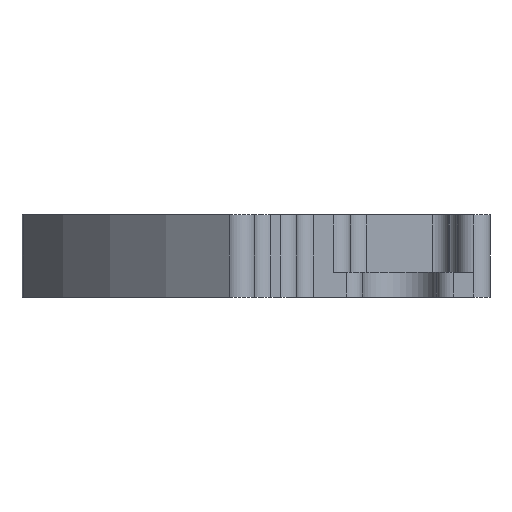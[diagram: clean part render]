
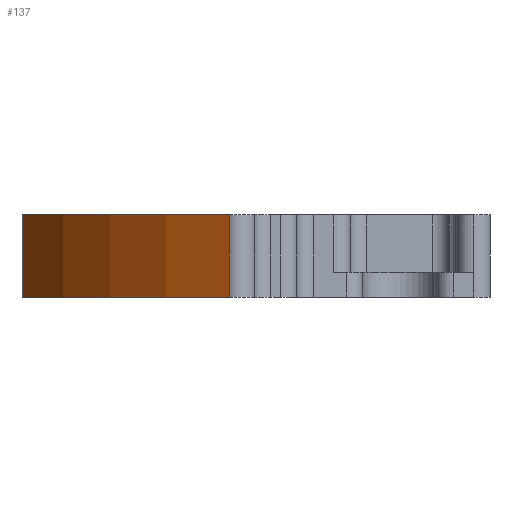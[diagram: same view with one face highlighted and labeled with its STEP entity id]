
A CAD part, front view. The second image highlights one B-rep face of the part: STEP entity #137.
In plain terms, the highlighted cylindrical face has radius 34 mm (diameter 68 mm), a partial arc.
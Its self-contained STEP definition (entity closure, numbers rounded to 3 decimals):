
#137=ADVANCED_FACE('',(#255),#1103,.T.);
#255=FACE_OUTER_BOUND('',#373,.F.);
#373=EDGE_LOOP('',(#511,#512,#513,#514));
#511=ORIENTED_EDGE('',*,*,#1531,.T.);
#512=ORIENTED_EDGE('',*,*,#1526,.F.);
#513=ORIENTED_EDGE('',*,*,#1529,.T.);
#514=ORIENTED_EDGE('',*,*,#1525,.T.);
#1103=CYLINDRICAL_SURFACE('',#2216,34.);
#1197=LINE('',#3227,#1355);
#1198=LINE('',#3228,#1356);
#1355=VECTOR('',#2396,5.);
#1356=VECTOR('',#2397,5.);
#1525=EDGE_CURVE('',#2056,#2055,#1197,.T.);
#1526=EDGE_CURVE('',#2054,#2053,#1198,.T.);
#1529=EDGE_CURVE('',#2054,#2056,#1808,.T.);
#1531=EDGE_CURVE('',#2055,#2053,#1809,.T.);
#1808=CIRCLE('',#2124,34.);
#1809=CIRCLE('',#2125,34.);
#2053=VERTEX_POINT('',#3151);
#2054=VERTEX_POINT('',#3152);
#2055=VERTEX_POINT('',#3153);
#2056=VERTEX_POINT('',#3154);
#2124=AXIS2_PLACEMENT_3D('',#3231,#2400,#2401);
#2125=AXIS2_PLACEMENT_3D('',#3233,#2403,#2404);
#2216=AXIS2_PLACEMENT_3D('',#3470,#2703,#2704);
#2396=DIRECTION('',(0.,0.,1.));
#2397=DIRECTION('',(0.,0.,1.));
#2400=DIRECTION('',(0.,0.,-1.));
#2401=DIRECTION('',(-0.53,-0.848,0.));
#2403=DIRECTION('',(0.,0.,1.));
#2404=DIRECTION('',(-0.898,-0.439,0.));
#2703=DIRECTION('',(0.,0.,1.));
#2704=DIRECTION('',(-0.898,-0.439,0.));
#3151=CARTESIAN_POINT('',(266.345,390.427,350.374));
#3152=CARTESIAN_POINT('',(266.345,390.427,345.374));
#3153=CARTESIAN_POINT('',(253.833,404.313,350.374));
#3154=CARTESIAN_POINT('',(253.833,404.313,345.374));
#3227=CARTESIAN_POINT('',(253.833,404.313,345.374));
#3228=CARTESIAN_POINT('',(266.345,390.427,345.374));
#3231=CARTESIAN_POINT('',(284.375,419.252,345.374));
#3233=CARTESIAN_POINT('',(284.375,419.252,350.374));
#3470=CARTESIAN_POINT('',(284.375,419.252,345.374));
